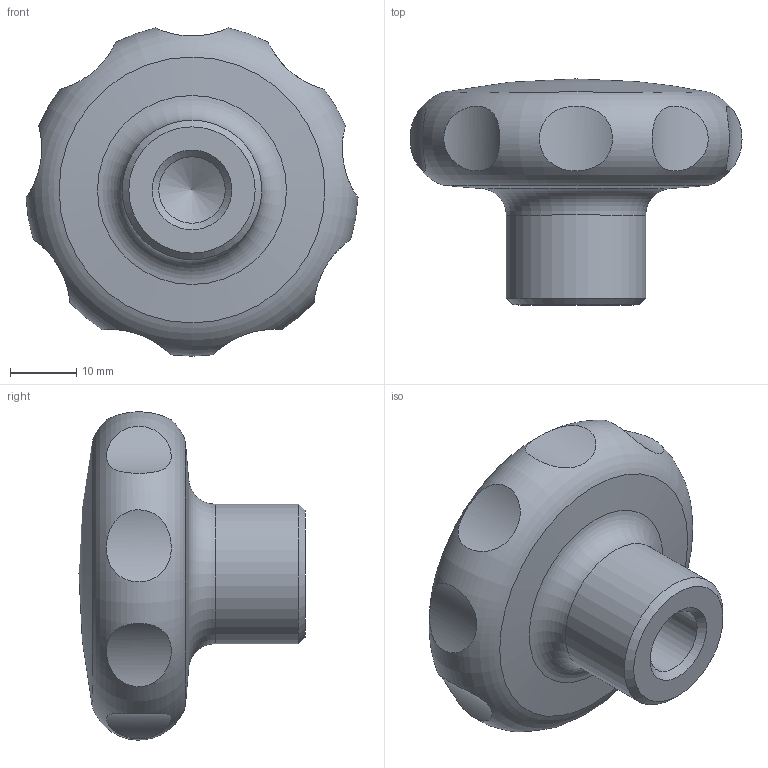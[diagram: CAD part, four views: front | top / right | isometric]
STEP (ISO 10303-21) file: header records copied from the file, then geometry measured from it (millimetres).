
FILE_DESCRIPTION( ( 'STEP AP203' ), '1' );
FILE_NAME( 'C:/Temp/Ganter_Step_05_03_2020/data/2_2/gn_5335/gn_5335_ni_c/Stainless steel-Star knob GN 5335-50-B10-C.stp', '2020-03-05T12:10:22', ( 'License CC BY-ND 4.0' ), ( 'CADENAS' ), ' ', 'PARTsolutions', ' ' );
FILE_SCHEMA( ( 'CONFIG_CONTROL_DESIGN' ) );
Length unit declared in the file: millimetre
Products named in the file (1): _Stainless steel-Star knob GN 5335-50-B10-C
Bounding box: 49.94 x 34 x 49.38 mm (x, y, z)
Volume: 30297.4 mm3; surface area: 6795.5 mm2
Topology: 1 solids, 1 shells, 19 faces, 30 edges, 21 vertices
Faces by surface type: cylinder 11, cone 3, torus 2, sphere 2, plane 1
Full cylindrical faces by diameter (mm): 10 x1, 21 x1
Entity records: 1138 total; most frequent: CARTESIAN_POINT 794, DIRECTION 58, EDGE_LOOP 36, ORIENTED_EDGE 36, AXIS2_PLACEMENT_3D 29, FACE_OUTER_BOUND 24, VERTEX_POINT 21, ADVANCED_FACE 19
